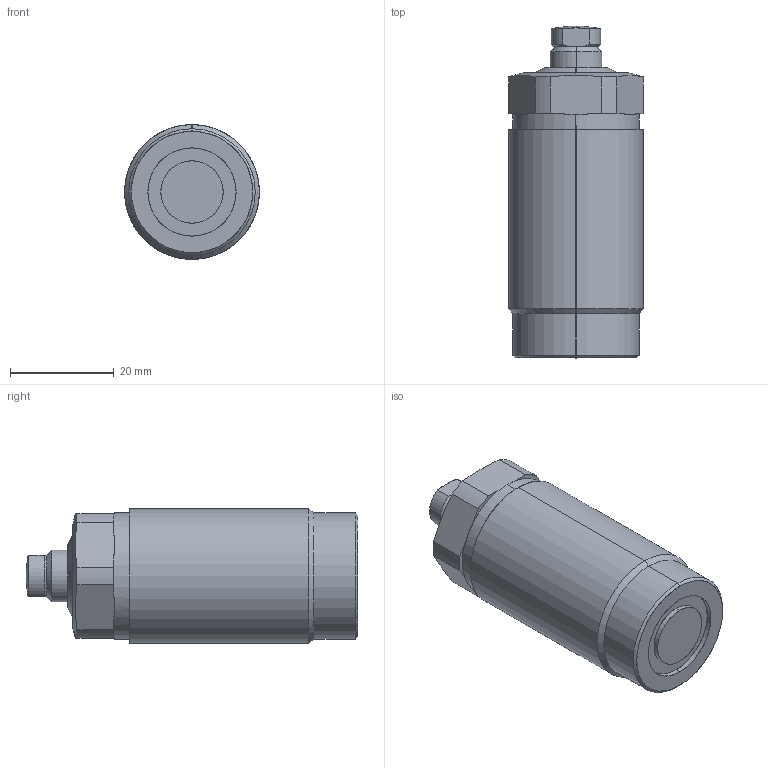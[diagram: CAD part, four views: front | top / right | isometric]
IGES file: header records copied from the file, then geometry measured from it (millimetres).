
Start section: SolidWorks IGES file using analytic representation for surfaces
Global section: file name: D:\karuppas\Clasp\3D model\Work support\Work support TW09-M260\TW09-M260 Work support.SLDPRT.IGS; native system: SolidWorks 2017; preprocessor: SolidWorks 2017; author: pc; date: 220709.224435; units: millimetre
Bounding box: 26 x 64 x 26 mm (x, y, z)
Surface area: 7703.3 mm2 (no closed solid volume)
Topology: 0 solids, 0 shells, 258 faces, 3019 edges, 3015 vertices
Faces by surface type: bspline 202, revolution 56
